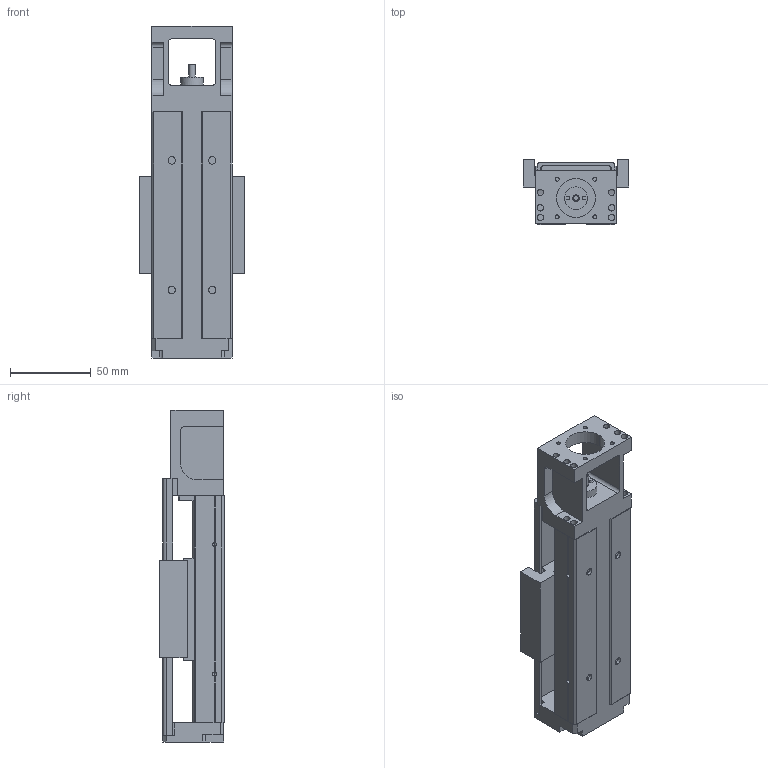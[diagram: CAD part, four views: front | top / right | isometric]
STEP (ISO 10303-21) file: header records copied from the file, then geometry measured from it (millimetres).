
FILE_DESCRIPTION (( 'STEP AP203' ), '1' );
FILE_NAME ('GSX50C-50-LL08025-P7.STEP', '2013-11-02T01:47:50', ( '微软用户' ), ( '微软中国' ), 'SwSTEP 2.0', 'SolidWorks 2010', '' );
FILE_SCHEMA (( 'CONFIG_CONTROL_DESIGN' ));
Length unit declared in the file: millimetre
Products named in the file (1): GSX50C-50-LL08025-P7
Bounding box: 65 x 40 x 205 mm (x, y, z)
Volume: 225943.5 mm3; surface area: 83093.8 mm2
Topology: 3 solids, 8 shells, 370 faces, 963 edges, 604 vertices
Faces by surface type: plane 170, cylinder 156, cone 44
Entity records: 11230 total; most frequent: CARTESIAN_POINT 1970, DIRECTION 1969, ORIENTED_EDGE 1846, EDGE_CURVE 923, AXIS2_PLACEMENT_3D 691, VERTEX_POINT 604, VECTOR 587, LINE 587
